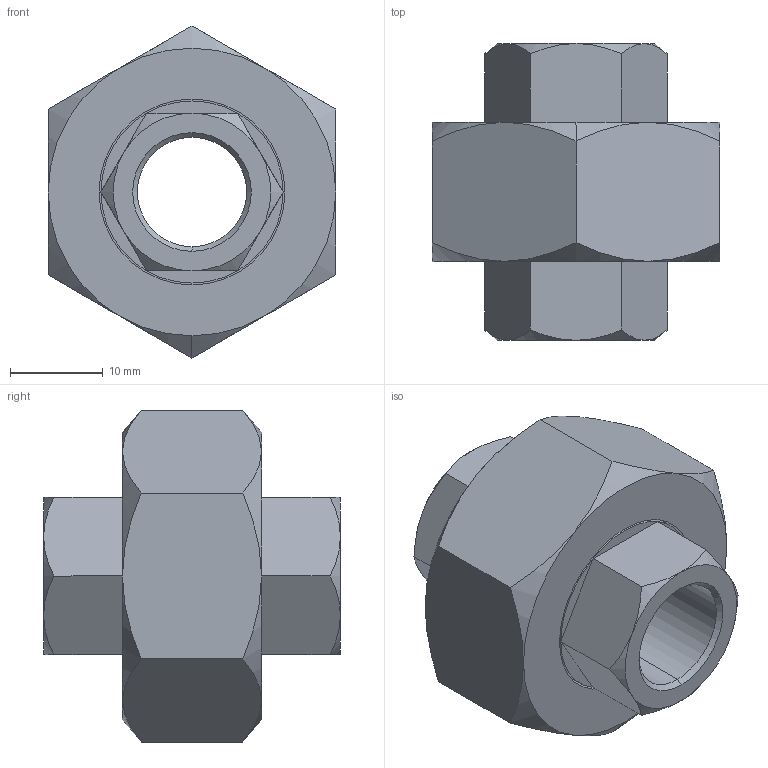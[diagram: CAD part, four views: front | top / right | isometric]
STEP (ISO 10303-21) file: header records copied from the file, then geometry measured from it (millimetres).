
FILE_DESCRIPTION (( 'STEP AP203' ), '1' );
FILE_NAME ('AXH14 B2B2 00.STEP', '2018-11-17T14:27:05', ( '' ), ( '' ), 'SwSTEP 2.0', 'SolidWorks 2013', '' );
FILE_SCHEMA (( 'CONFIG_CONTROL_DESIGN' ));
Length unit declared in the file: millimetre
Products named in the file (1): AXH14 B2B2 00
Bounding box: 31 x 32 x 35.8 mm (x, y, z)
Volume: 12552.1 mm3; surface area: 5808.2 mm2
Topology: 1 solids, 1 shells, 88 faces, 180 edges, 100 vertices
Faces by surface type: plane 38, cone 34, cylinder 16
Entity records: 2613 total; most frequent: CARTESIAN_POINT 737, DIRECTION 386, ORIENTED_EDGE 360, EDGE_CURVE 180, AXIS2_PLACEMENT_3D 165, VERTEX_POINT 100, EDGE_LOOP 96, ADVANCED_FACE 88
